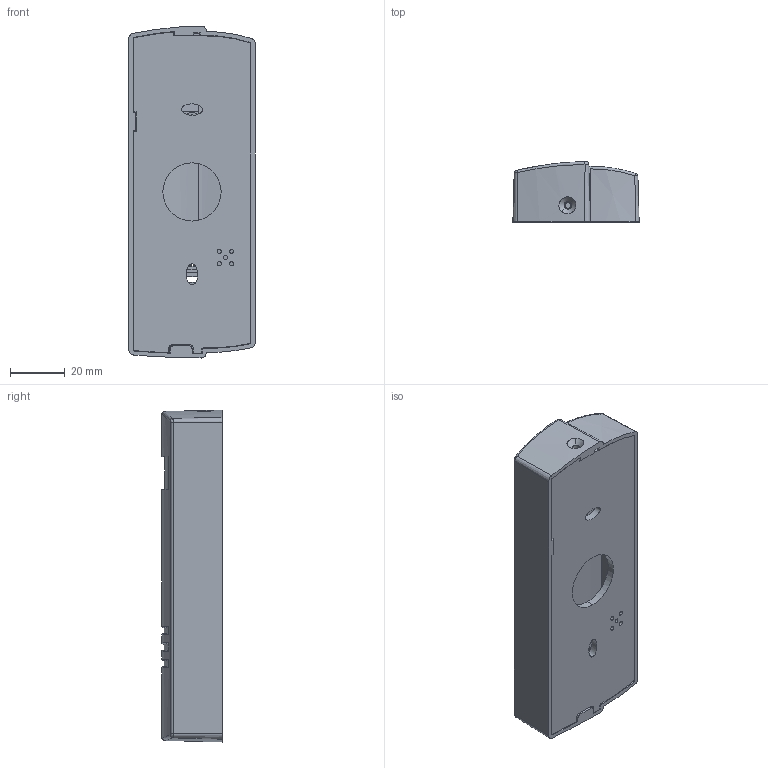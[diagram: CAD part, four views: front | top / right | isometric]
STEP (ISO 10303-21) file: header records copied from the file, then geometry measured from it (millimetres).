
FILE_DESCRIPTION (( 'STEP AP203' ), '1' );
FILE_NAME ('DM-028.STEP', '2021-12-11T07:25:46', ( '' ), ( '' ), 'SwSTEP 2.0', 'SolidWorks 2021', '' );
FILE_SCHEMA (( 'CONFIG_CONTROL_DESIGN' ));
Length unit declared in the file: millimetre
Products named in the file (3): DM-028_govde; DM-028; DM-028_taban
Assembly tree (2 placements, depth 2):
  DM-028
    DM-028_govde
    DM-028_taban
Bounding box: 46 x 21.99 x 120.98 mm (x, y, z)
Volume: 39033.6 mm3; surface area: 34041.1 mm2
Topology: 2 solids, 2 shells, 304 faces, 837 edges, 544 vertices
Faces by surface type: plane 113, cylinder 72, bspline 62, cone 57
Entity records: 12670 total; most frequent: CARTESIAN_POINT 5345, ORIENTED_EDGE 1674, DIRECTION 1210, EDGE_CURVE 837, VERTEX_POINT 544, AXIS2_PLACEMENT_3D 404, LINE 402, VECTOR 402
